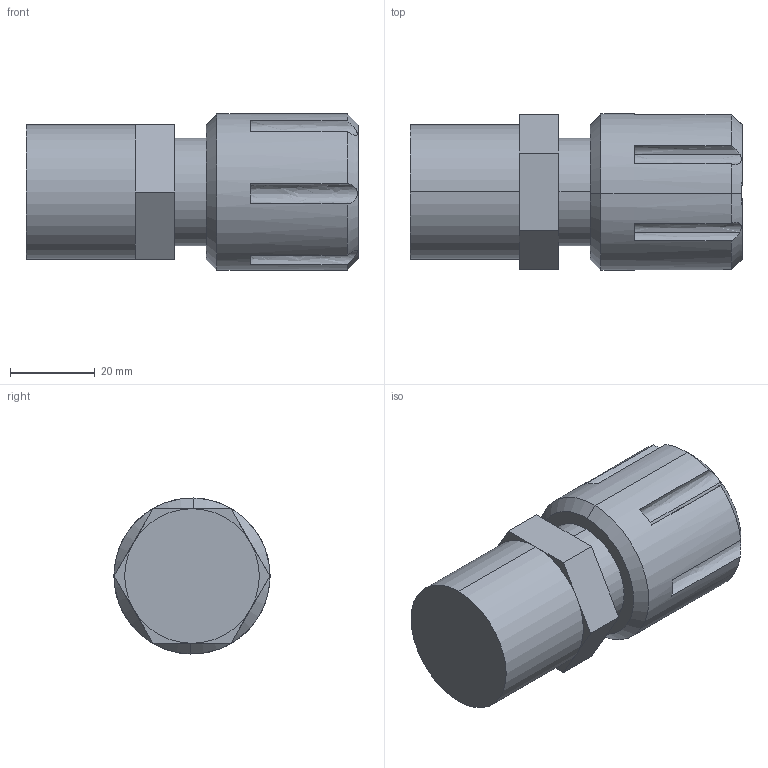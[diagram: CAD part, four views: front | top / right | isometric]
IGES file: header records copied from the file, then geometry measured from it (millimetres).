
Start section: SolidWorks IGES file using analytic representation for surfaces
Global section: file name: S:\Product Visuals\Defeatured Models\Parts Library\Liquid Fittings\Front Mount liquid Fittings\Flaretek Compatible\60LPM\Fitting Flaretek Compatible 16.IGS; native system: SolidWorks 2012; preprocessor: SolidWorks 2012; author: rachel.dressel; date: 120921.131424; units: inch
Bounding box: 78.33 x 36.82 x 36.82 mm (x, y, z)
Volume: 65550.4 mm3; surface area: 11826.8 mm2
Topology: 1 solids, 1 shells, 43 faces, 102 edges, 64 vertices
Faces by surface type: plane 23, revolution 20
